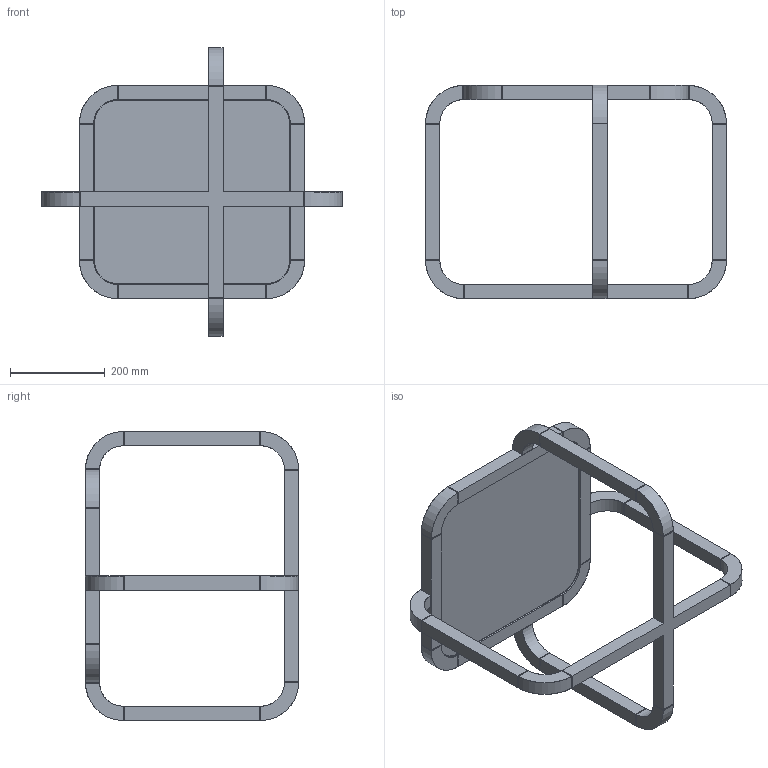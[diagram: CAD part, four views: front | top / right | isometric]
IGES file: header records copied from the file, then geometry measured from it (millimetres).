
Start section: SolidWorks IGES file using analytic representation for surfaces
Global section: file name: C:\Users\Utilizador\Desktop\176S Alpha Side Table_va\176S Alpha Side Table _3D IGS.IGS; native system: SolidWorks 2022; preprocessor: SolidWorks 2022; author: Utilizador; date: 221104.160652; units: millimetre
Bounding box: 635 x 450 x 610 mm (x, y, z)
Surface area: 869128.5 mm2 (no closed solid volume)
Topology: 0 solids, 0 shells, 298 faces, 3040 edges, 3040 vertices
Faces by surface type: bspline 238, revolution 60
